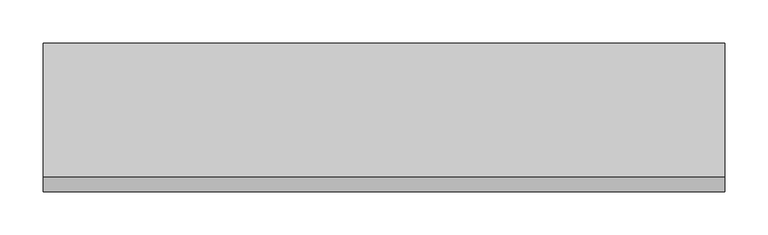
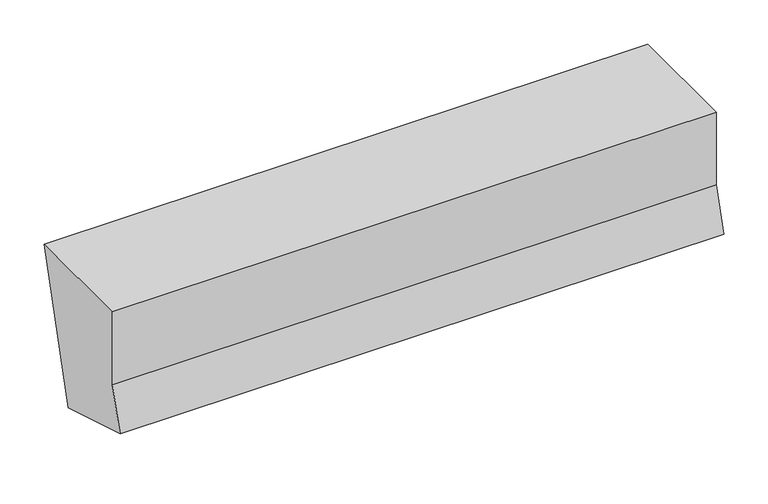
"""IFC4 building model written with IfcOpenShell, lengths in millimetres: proxy geometry, Marco angulo : Marco angulo."""

import ifcopenshell
import ifcopenshell.guid

model = None  # the IFC model being written
_history = None  # IfcOwnerHistory: only IFC2X3 demands one
_inside = {}  # id of a spatial element -> (the spatial element, [elements in it])
_under = {}  # id of a project, library or spatial element -> (it, [spatial elements below it])
_declared = {}  # id of a project -> (the project, [libraries it declares])
_typed = {}  # id of a type object -> (the type object, [elements of that type])
_made_of = {}  # id of a material, layer set ... -> (it, [elements and type objects made of it])


def new_model(schema):
    """Start an empty IFC model of exactly this schema.

    Asked for "IFC4X3", IfcOpenShell would pick the latest addendum, in which some entities
    have other attributes; the version numbers below select the first issue.
    IFC2X3 requires an IfcOwnerHistory on every rooted entity: one is made here for all.
    """
    global model, _history
    if schema == "IFC4X3":
        model = ifcopenshell.file(schema_version=(4, 3, 0, 0))
    else:
        model = ifcopenshell.file(schema=schema)
    _inside.clear()
    _under.clear()
    _declared.clear()
    _typed.clear()
    _made_of.clear()
    _history = None
    if model.schema == "IFC2X3":
        org = make("IfcOrganization", Name="unknown")
        user = make(
            "IfcPersonAndOrganization",
            ThePerson=make("IfcPerson", FamilyName="unknown"),
            TheOrganization=org,
        )
        app = make(
            "IfcApplication",
            ApplicationDeveloper=org,
            Version="unknown",
            ApplicationFullName="unknown",
            ApplicationIdentifier="unknown",
        )
        _history = make(
            "IfcOwnerHistory",
            OwningUser=user,
            OwningApplication=app,
            ChangeAction="ADDED",
            CreationDate=0,
        )
    return model


def make(cls, **values):
    """One entity of the class cls with the attributes given. An attribute that is None is left unset."""
    return model.create_entity(
        cls, **{name: value for name, value in values.items() if value is not None}
    )


def rooted(cls, **values):
    """An entity with a GlobalId (a new one), such as an element, a storey or a relation."""
    return make(cls, GlobalId=ifcopenshell.guid.new(), OwnerHistory=_history, **values)


def si_unit(unit_type, name, prefix=None):
    """IfcSIUnit, for example si_unit("LENGTHUNIT", "METRE", prefix="MILLI")."""
    return make("IfcSIUnit", UnitType=unit_type, Prefix=prefix, Name=name)


def assignment(units):
    """IfcUnitAssignment: the units of a project."""
    return None if units is None else make("IfcUnitAssignment", Units=units)


def point(xyz):
    """IfcCartesianPoint."""
    return None if xyz is None else make("IfcCartesianPoint", Coordinates=xyz)


def direction(xyz):
    """IfcDirection."""
    return None if xyz is None else make("IfcDirection", DirectionRatios=xyz)


def frame(location, z_axis=None, x_axis=None):
    """IfcAxis2Placement3D, a coordinate frame: its origin and axes. An axis left out is left unset."""
    return make(
        "IfcAxis2Placement3D",
        Location=point(location),
        Axis=direction(z_axis),
        RefDirection=direction(x_axis),
    )


def origin():
    """The frame at (0, 0, 0) with its axes left unset."""
    return frame((0.0, 0.0, 0.0))


def place(relative_to, where):
    """IfcLocalPlacement: puts the frame where relative to a parent placement (None: the world)."""
    return make(
        "IfcLocalPlacement", PlacementRelTo=relative_to, RelativePlacement=where
    )


def context(
    kind, dimensions, precision=None, world=None, true_north=None, identifier=None
):
    """IfcGeometricRepresentationContext, for example the 3D "Model" context."""
    return make(
        "IfcGeometricRepresentationContext",
        ContextIdentifier=identifier,
        ContextType=kind,
        CoordinateSpaceDimension=dimensions,
        Precision=precision,
        WorldCoordinateSystem=world,
        TrueNorth=true_north,
    )


def project(units=None, contexts=None):
    """IfcProject with its units and contexts."""
    return rooted(
        "IfcProject",
        Name="project",
        RepresentationContexts=contexts,
        UnitsInContext=assignment(units),
    )


def spatial(cls, under=None, at=None, **own):
    """A site, building, storey or space (cls), placed at a placement, below another one or the project."""
    s = rooted(cls, ObjectPlacement=at, **own)
    if under is not None:
        _under.setdefault(under.id(), (under, []))[1].append(s)
    return s


def polyline(points):
    """IfcPolyline through the points."""
    return make("IfcPolyline", Points=[point(p) for p in points])


def outline(outer, holes=None, kind="AREA"):
    """IfcArbitraryClosedProfileDef: a profile drawn as a closed curve; with holes, ...WithVoids."""
    if holes is None:
        return make("IfcArbitraryClosedProfileDef", ProfileType=kind, OuterCurve=outer)
    return make(
        "IfcArbitraryProfileDefWithVoids",
        ProfileType=kind,
        OuterCurve=outer,
        InnerCurves=holes,
    )


def extrude(swept, where, along, depth):
    """IfcExtrudedAreaSolid: the profile swept, set in the frame where, extruded along a direction by depth."""
    return make(
        "IfcExtrudedAreaSolid",
        SweptArea=swept,
        Position=where,
        ExtrudedDirection=direction(along),
        Depth=depth,
    )


def shape(context_of_items, identifier, shape_type, items):
    """IfcShapeRepresentation: the items that make up one representation, for example the "Body"."""
    return make(
        "IfcShapeRepresentation",
        ContextOfItems=context_of_items,
        RepresentationIdentifier=identifier,
        RepresentationType=shape_type,
        Items=items,
    )


def source(mapping_origin, context_of_items, identifier, shape_type, items):
    """IfcRepresentationMap: a shape defined once, which mapped items show again and again."""
    return make(
        "IfcRepresentationMap",
        MappingOrigin=mapping_origin,
        MappedRepresentation=shape(context_of_items, identifier, shape_type, items),
    )


def transform(
    local_origin,
    x_axis=None,
    y_axis=None,
    z_axis=None,
    scale=None,
    scale2=None,
    scale3=None,
    uniform=True,
):
    """IfcCartesianTransformationOperator3D, or its non-uniform kind. x_axis, y_axis, z_axis: its Axis1, 2, 3."""
    if uniform:
        return make(
            "IfcCartesianTransformationOperator3D",
            Axis1=direction(x_axis),
            Axis2=direction(y_axis),
            LocalOrigin=point(local_origin),
            Scale=scale,
            Axis3=direction(z_axis),
        )
    return make(
        "IfcCartesianTransformationOperator3DnonUniform",
        Axis1=direction(x_axis),
        Axis2=direction(y_axis),
        LocalOrigin=point(local_origin),
        Scale=scale,
        Axis3=direction(z_axis),
        Scale2=scale2,
        Scale3=scale3,
    )


def mapped(mapping_source, mapping_target):
    """IfcMappedItem: shows the shape of a source again, moved by a transform."""
    return make(
        "IfcMappedItem", MappingSource=mapping_source, MappingTarget=mapping_target
    )


def made_of(thing, what):
    """Note that an element or type object is made of a material, layer set ...; save() writes the relation."""
    if what is not None:
        _made_of.setdefault(what.id(), (what, []))[1].append(thing)
    return thing


def element(
    cls,
    number,
    at=None,
    inside=None,
    cuts=None,
    type_object=None,
    material=None,
    context=None,
    identifier="Body",
    shape_type=None,
    held_by="IfcProductDefinitionShape",
    body=None,
    shapes=None,
    **own,
):
    """One element of the class cls, such as IfcWall. Its Tag is "e" and its number.

    at: its placement. inside: the storey or other place that contains it. cuts: it is an
    opening in that element (IfcRelVoidsElement). A single representation is given by context,
    identifier, shape_type and body (its items); several are given by shapes. held_by: the class
    of the entity that holds the representations. save() writes the other relations.
    """
    e = rooted(cls, Tag="e%d" % number, ObjectPlacement=at, **own)
    if body is not None:
        shapes = [shape(context, identifier, shape_type, body)]
    if shapes is not None:
        e.Representation = make(held_by, Representations=shapes)
    if inside is not None:
        _inside.setdefault(inside.id(), (inside, []))[1].append(e)
    if cuts is not None:
        rooted(
            "IfcRelVoidsElement", RelatingBuildingElement=cuts, RelatedOpeningElement=e
        )
    if type_object is not None:
        _typed.setdefault(type_object.id(), (type_object, []))[1].append(e)
    return made_of(e, material)


def aggregate(whole, parts):
    """IfcRelAggregates: a whole, such as a stair, and the parts it consists of."""
    return rooted("IfcRelAggregates", RelatingObject=whole, RelatedObjects=parts)


def save(model, path):
    """Write the relations noted so far, then the file.

    IfcRelAggregates (storeys below a building ...), IfcRelContainedInSpatialStructure (elements
    in a storey), IfcRelDefinesByType, IfcRelAssociatesMaterial and IfcRelDeclares: one each for
    every whole, place, type object, material and project.
    """
    for whole, parts in _under.values():
        aggregate(whole, parts)
    for where, things in _inside.values():
        rooted(
            "IfcRelContainedInSpatialStructure",
            RelatedElements=things,
            RelatingStructure=where,
        )
    for kind, things in _typed.values():
        rooted("IfcRelDefinesByType", RelatedObjects=things, RelatingType=kind)
    for what, things in _made_of.values():
        rooted("IfcRelAssociatesMaterial", RelatedObjects=things, RelatingMaterial=what)
    for by, libraries in _declared.values():
        rooted("IfcRelDeclares", RelatingContext=by, RelatedDefinitions=libraries)
    model.write(path)


def generic_models_e5db0f82(model_context):
    return source(origin(), model_context, "Body", "SweptSolid", [
        extrude(outline(polyline([(3858.0204729, 7790.0), (4011.8960075, 7790.0), (3958.3580256, 7597.2989764), (3840.8147082, 7632.4268644), (3858.0204729, 7690.0), (3858.0204729, 7790.0)])), frame((99.1398199, 0.0, 0.0), z_axis=(1.0, 0.0, 0.0), x_axis=(0.0, 1.0, 0.0)), (0.0, 0.0, 1.0), 786.3952759),
    ])


if __name__ == "__main__":
    model = new_model("IFC4")
    model_context = context("Model", 3, world=origin())
    ifc_project = project(units=[si_unit("LENGTHUNIT", "METRE", prefix="MILLI")], contexts=[model_context])
    site = spatial("IfcSite", under=ifc_project)
    building = spatial("IfcBuilding", under=site)
    placement = place(None, origin())
    generic_models_shape = generic_models_e5db0f82(model_context)
    element("IfcBuildingElementProxy", 1, Name="Marco angulo : Marco angulo", ObjectType="Marco angulo : Marco angulo", at=placement, inside=building, context=model_context, shape_type="MappedRepresentation", body=[
        mapped(generic_models_shape, transform((0.0, 0.0, 0.0), x_axis=(1.0, 0.0, 0.0), y_axis=(0.0, 1.0, 0.0), z_axis=(0.0, 0.0, 1.0))),
    ])
    save(model, "model.ifc")
